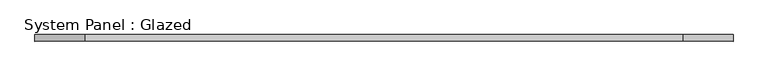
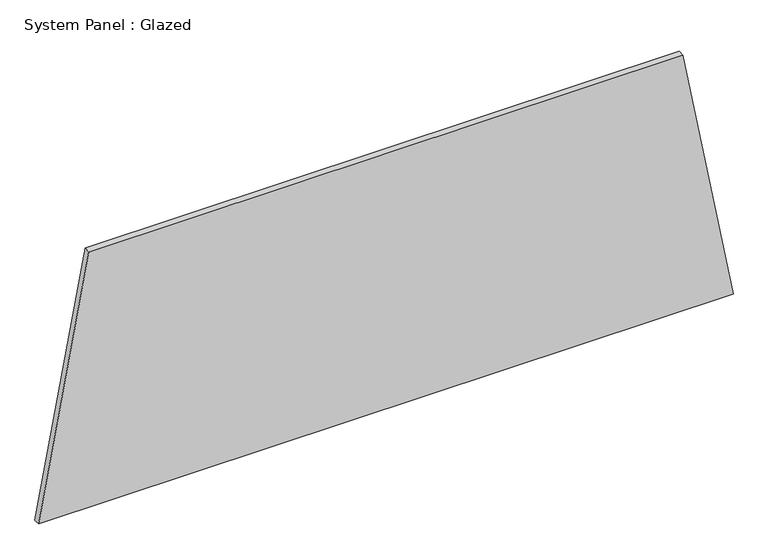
"""IFC4 building model written with IfcOpenShell, lengths in millimetres: plate geometry, System Panel : Glazed."""

from ifc_helpers import new_model, si_unit, frame, origin, place, context, project, spatial, polyline, outline, extrude, source, transform, mapped, element, save


def system_panel_glazed_7bc4ba0a(model_context):
    return source(origin(), model_context, "Body", "SweptSolid", [
        extrude(outline(polyline([(0.0, -1346.6402289), (0.0, 1346.6402289), (1048.958325, 1152.3500528), (1048.958325, -1152.3500528), (0.0, -1346.6402289)])), frame((0.0, -44.45, 0.0), z_axis=(0.0, 1.0, 0.0), x_axis=(0.0, 0.0, 1.0)), (0.0, 0.0, 1.0), 25.4),
    ])


if __name__ == "__main__":
    model = new_model("IFC4")
    model_context = context("Model", 3, world=origin())
    ifc_project = project(units=[si_unit("LENGTHUNIT", "METRE", prefix="MILLI")], contexts=[model_context])
    site = spatial("IfcSite", under=ifc_project)
    building = spatial("IfcBuilding", under=site)
    placement = place(None, origin())
    system_panel_glazed_shape = system_panel_glazed_7bc4ba0a(model_context)
    element("IfcPlate", 1, ObjectType="System Panel : Glazed", at=placement, inside=building, context=model_context, shape_type="MappedRepresentation", body=[
        mapped(system_panel_glazed_shape, transform((0.0, 0.0, 0.0), x_axis=(1.0, 0.0, 0.0), y_axis=(0.0, 1.0, 0.0), z_axis=(0.0, 0.0, 1.0))),
    ])
    save(model, "model.ifc")
